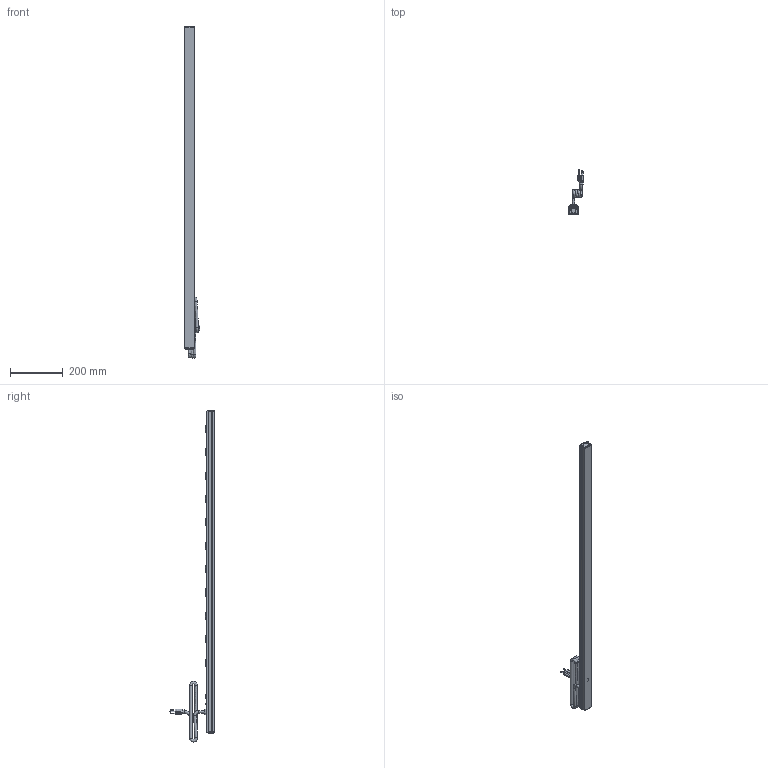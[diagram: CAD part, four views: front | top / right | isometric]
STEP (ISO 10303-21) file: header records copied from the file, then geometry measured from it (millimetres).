
FILE_DESCRIPTION((''),'2;1');
FILE_NAME('E:\Dutton\Manufacturing\drawings\Updated 2009\Vertical Rack Mount Strips\1585 Series\STEP''s\1585H11A1.stp','2010-01-19T07:10:35',('tfoster'),(''),'Autodesk Inventor 2010','Autodesk Inventor 2010','');
FILE_SCHEMA(('AUTOMOTIVE_DESIGN { 1 0 10303 214 1 1 1 1 }'));
Products named in the file (14): 1585H11A1; 1585H11 top; 1585 bottom; End Cap; End Cap w breaker; Reset Switch; #6 - 0.375 Type A screw; Cored 2; toothwasher; round head 1-way 8-32 x 0.5 screw; Power Switch Assembly; Power Switch; Power Switch pt; Receptacle
Assembly tree (26 placements, depth 3):
  1585H11A1
    1585H11 top
    1585 bottom
    End Cap
    End Cap w breaker
    Reset Switch
    #6 - 0.375 Type A screw  x4
    Cored 2
    toothwasher
    round head 1-way 8-32 x 0.5 screw
    Power Switch Assembly
      Power Switch
      Power Switch pt
    Receptacle  x11
Bounding box: 60.19 x 170.82 x 1262.78 mm (x, y, z)
Volume: 538114.3 mm3; surface area: 490365.4 mm2
Topology: 25 solids, 25 shells, 1282 faces, 3628 edges, 2383 vertices
Faces by surface type: plane 773, cylinder 277, bspline 139, sphere 50, cone 28, torus 15
Full cylindrical faces by diameter (mm): 1 x2, 1.803 x3, 1.905 x2, 3 x2, 3.175 x12, 4.3 x1, 4.775 x1, 4.826 x1, 7.849 x1, 9.5 x5, 11 x1, 15.621 x1, 19.05 x2
Entity records: 27812 total; most frequent: CARTESIAN_POINT 9809, ORIENTED_EDGE 3890, DIRECTION 3230, EDGE_CURVE 1945, VERTEX_POINT 1370, VECTOR 1142, LINE 1142, AXIS2_PLACEMENT_3D 1044
